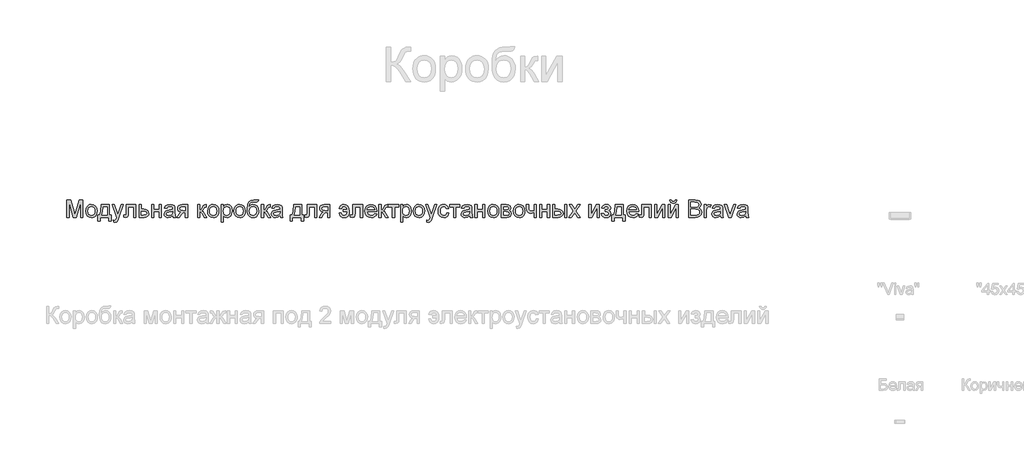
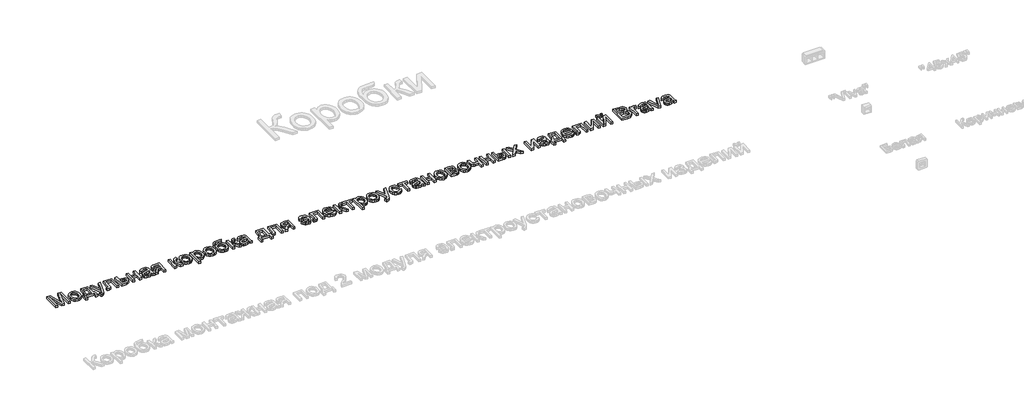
# One storey, part 40 of 48: 1 proxy.
"""IFC4 building model written with IfcOpenShell, lengths in millimetres."""

from ifc_helpers import new_model, si_unit, origin, origin_with_axes, place, context, project, spatial, polyline, outline, extrude, element, save

model = new_model("IFC4")

# Units and contexts
model_context = context("Model", 3, world=origin())
ifc_project = project(units=[si_unit("LENGTHUNIT", "METRE", prefix="MILLI")], contexts=[model_context])

# Site, building, storey
site = spatial("IfcSite", under=ifc_project)
building = spatial("IfcBuilding", under=site)
storey = spatial("IfcBuildingStorey", under=building, Name="Этаж 01", Elevation=0.0)

# Proxy
placement = place(None, origin())
element("IfcBuildingElementProxy", 1, Name="150 мм Arial", ObjectType="150 мм Arial", at=placement, inside=storey, context=model_context, shape_type="SweptSolid", body=[
    extrude(outline(polyline([(37339.3634771, 4021.617154), (37339.3634771, 4172.3016192), (37371.7738809, 4172.3016192), (37402.6023921, 4066.0940872), (37408.8195978, 4043.9108029), (37415.5518383, 4067.9334972), (37445.8653147, 4172.3016192), (37478.2757185, 4172.3016192), (37478.2757185, 4021.617154), (37459.4401604, 4021.617154), (37459.4401604, 4153.466061), (37421.585103, 4021.617154), (37396.0540926, 4021.617154), (37358.1990353, 4153.466061), (37358.1990353, 4021.617154), (37339.3634771, 4021.617154)])), origin_with_axes(), (0.0, 0.0, 1.0), 20.0),
    extrude(outline(polyline([(37504.174611, 4076.946606), (37508.2489041, 4103.6272477), (37520.4717834, 4122.3800324), (37535.5733393, 4131.5678853), (37553.6547393, 4134.6305029), (37573.4421921, 4130.9010992), (37589.2473224, 4119.712888), (37599.607799, 4101.9487861), (37603.0612913, 4078.4917104), (37601.534581, 4059.4630142), (37596.9544502, 4044.9776607), (37589.454256, 4034.1297403), (37579.1673557, 4026.0133438), (37566.9490749, 4020.9503679), (37553.6547393, 4019.2627092), (37533.6281632, 4022.9783174), (37517.8414271, 4034.1251418), (37507.591315, 4052.2617242), (37504.174611, 4076.946606)]), holes=[polyline([(37523.0101691, 4076.9833942), (37525.1898699, 4059.9366623), (37531.7289724, 4047.7919579), (37541.5698158, 4040.52169), (37553.6547393, 4038.0982674), (37565.6844806, 4040.5354856), (37575.5069298, 4047.8471402), (37582.0460323, 4060.152793), (37584.2257331, 4077.5720054), (37582.0322367, 4094.1220967), (37575.4517475, 4106.1012542), (37565.6155027, 4113.3715221), (37553.6547393, 4115.7949447), (37541.5698158, 4113.3807191), (37531.7289724, 4106.1380424), (37525.1898699, 4094.0209291), (37523.0101691, 4076.9833942)])]), origin_with_axes(), (0.0, 0.0, 1.0), 20.0),
    extrude(outline(polyline([(37640.7324076, 4132.2760581), (37711.3657507, 4132.2760581), (37711.3657507, 4040.4527121), (37725.4924193, 4040.4527121), (37725.4924193, 3991.009372), (37706.6568611, 3991.009372), (37706.6568611, 4021.617154), (37628.9601837, 4021.617154), (37628.9601837, 3991.009372), (37610.1246256, 3991.009372), (37610.1246256, 4040.4527121), (37621.8968494, 4040.4527121), (37630.4547043, 4055.9175515), (37636.4465823, 4076.376389), (37640.7324076, 4132.2760581)]), holes=[polyline([(37657.213521, 4113.4405), (37652.798937, 4070.5270652), (37643.0868523, 4040.4527121), (37692.5301925, 4040.4527121), (37692.5301925, 4113.4405), (37657.213521, 4113.4405)])]), origin_with_axes(), (0.0, 0.0, 1.0), 20.0),
    extrude(outline(polyline([(37746.6824222, 3979.2371481), (37744.3279774, 3997.3737305), (37753.8929093, 3995.7182615), (37762.8324418, 3997.7967948), (37768.3138835, 4003.5909362), (37773.4642314, 4017.4600874), (37774.9357594, 4022.0218242), (37734.9101983, 4132.2760581), (37754.7758261, 4132.2760581), (37776.0026172, 4070.8397649), (37783.3970453, 4046.2652476), (37790.7914734, 4067.9702854), (37812.6068757, 4132.2760581), (37832.3253507, 4132.2760581), (37793.8081058, 4018.9684036), (37783.8017155, 3994.3938863), (37772.8756202, 3981.1133463), (37758.1971286, 3976.8827034), (37746.6824222, 3979.2371481)])), origin_with_axes(), (0.0, 0.0, 1.0), 20.0),
    extrude(outline(polyline([(37857.3413263, 4132.2760581), (37942.101338, 4132.2760581), (37942.101338, 4021.7275186), (37923.2657799, 4021.7275186), (37923.2657799, 4113.4405), (37876.1768845, 4113.4405), (37876.1768845, 4060.6494337), (37874.9076916, 4036.2956456), (37867.9363278, 4026.0133438), (37851.4552144, 4021.617154), (37836.1513234, 4022.5736472), (37836.1513234, 4040.4527121), (37844.5758211, 4040.4527121), (37853.0922893, 4041.6115404), (37856.4951977, 4045.2903604), (37857.3413263, 4061.7162914), (37857.3413263, 4132.2760581)])), origin_with_axes(), (0.0, 0.0, 1.0), 20.0),
    extrude(outline(polyline([(37970.3546753, 4132.2760581), (37989.1902334, 4132.2760581), (37989.1902334, 4092.250497), (38010.8952711, 4092.250497), (38029.7124352, 4089.8914537), (38043.6367687, 4082.8143239), (38052.2452074, 4071.5893245), (38055.1146869, 4056.7866727), (38052.6728702, 4043.3083961), (38045.34742, 4031.9362439), (38032.6508926, 4024.1969265), (38014.0958445, 4021.617154), (37970.3546753, 4021.617154), (37970.3546753, 4132.2760581)]), holes=[polyline([(37989.1902334, 4040.4527121), (38006.7749928, 4040.4527121), (38029.491706, 4044.4074436), (38034.5822731, 4049.4704195), (38036.2791288, 4056.7498845), (38031.2575396, 4068.3381674), (38023.1871283, 4072.145746), (38009.0190729, 4073.4149389), (37989.1902334, 4073.4149389), (37989.1902334, 4040.4527121)])]), origin_with_axes(), (0.0, 0.0, 1.0), 20.0),
    extrude(outline(polyline([(38078.6591346, 4132.2760581), (38097.4946928, 4132.2760581), (38097.4946928, 4089.8960523), (38146.9380329, 4089.8960523), (38146.9380329, 4132.2760581), (38165.7735911, 4132.2760581), (38165.7735911, 4021.617154), (38146.9380329, 4021.617154), (38146.9380329, 4071.0604941), (38097.4946928, 4071.0604941), (38097.4946928, 4021.617154), (38078.6591346, 4021.617154), (38078.6591346, 4132.2760581)])), origin_with_axes(), (0.0, 0.0, 1.0), 20.0),
    extrude(outline(polyline([(38264.6602714, 4035.7438226), (38246.3949303, 4022.9783174), (38226.2166029, 4019.2627092), (38210.475852, 4021.4975923), (38198.8645766, 4028.2022417), (38191.7046732, 4038.3833759), (38189.3180388, 4051.0477136), (38192.9232823, 4065.9469344), (38202.3962437, 4076.762665), (38215.5848132, 4082.9430826), (38231.8819856, 4085.7757739), (38264.5499068, 4092.250497), (38264.6602714, 4096.4443518), (38263.3634874, 4104.8504554), (38259.4731353, 4110.3502912), (38250.7727261, 4114.4337814), (38238.6510143, 4115.7949447), (38219.594727, 4112.1713071), (38210.5080417, 4099.3138314), (38191.6724836, 4101.6682761), (38199.8210697, 4120.0623759), (38216.2286067, 4130.8413183), (38241.0790355, 4134.6305029), (38263.9061133, 4131.2827767), (38276.8003772, 4122.8766731), (38282.5761246, 4110.0927738), (38283.4958295, 4093.6116604), (38283.4958295, 4070.1775773), (38284.4523227, 4037.4544739), (38288.2047191, 4021.617154), (38269.3691609, 4021.617154), (38264.6602714, 4035.7438226)]), holes=[polyline([(38264.6602714, 4073.4149389), (38234.2732186, 4067.6391916), (38218.0680167, 4064.585771), (38210.7287709, 4059.6193641), (38208.1535969, 4052.3720888), (38213.7637974, 4042.1817575), (38230.2265166, 4038.0982674), (38249.282804, 4042.6048218), (38261.5700626, 4053.512523), (38264.5499068, 4068.08065), (38264.6602714, 4073.4149389)])]), origin_with_axes(), (0.0, 0.0, 1.0), 20.0),
    extrude(outline(polyline([(38394.1547337, 4132.2760581), (38394.1547337, 4021.617154), (38375.3191755, 4021.617154), (38375.3191755, 4063.9971598), (38365.0552679, 4063.9971598), (38351.0757521, 4061.6059268), (38337.9423648, 4045.5294837), (38322.9327794, 4021.617154), (38301.1541653, 4021.617154), (38320.0632999, 4051.857054), (38328.4142212, 4062.7095728), (38336.1029549, 4067.528827), (38323.227085, 4071.4743614), (38314.1771879, 4078.969957), (38308.8245049, 4088.9395591), (38307.0402772, 4100.3071127), (38309.4774955, 4113.2013767), (38316.7891501, 4123.410102), (38328.7177238, 4130.0595691), (38345.0056991, 4132.2760581), (38394.1547337, 4132.2760581)]), holes=[polyline([(38375.3191755, 4113.4405), (38350.4871409, 4113.4405), (38337.6618548, 4112.3506496), (38330.3823898, 4109.0810983), (38325.8758354, 4098.872373), (38327.5359029, 4091.6940755), (38332.5161054, 4086.713873), (38356.042159, 4082.832718), (38375.3191755, 4082.832718), (38375.3191755, 4113.4405)])]), origin_with_axes(), (0.0, 0.0, 1.0), 20.0),
    extrude(outline(polyline([(38481.2691902, 4132.2760581), (38500.1047483, 4132.2760581), (38500.1047483, 4085.1871627), (38512.7231007, 4088.5716771), (38523.0605848, 4108.290152), (38531.6506294, 4125.3046943), (38539.2289985, 4130.8413183), (38553.0061792, 4132.2760581), (38556.6114228, 4132.2760581), (38556.6114228, 4113.3301354), (38551.5346512, 4113.4405), (38542.3376014, 4111.4539372), (38535.8628782, 4099.056314), (38528.266115, 4085.6470152), (38517.6159313, 4079.0803216), (38529.4985197, 4071.7502729), (38541.160379, 4056.3084261), (38561.3203123, 4021.617154), (38539.9095802, 4021.617154), (38520.154317, 4055.5726621), (38510.2215032, 4069.938454), (38500.1047483, 4073.4149389), (38500.1047483, 4021.617154), (38481.2691902, 4021.617154), (38481.2691902, 4132.2760581)])), origin_with_axes(), (0.0, 0.0, 1.0), 20.0),
    extrude(outline(polyline([(38568.3836466, 4076.946606), (38572.4579397, 4103.6272477), (38584.680819, 4122.3800324), (38599.7823749, 4131.5678853), (38617.863775, 4134.6305029), (38637.6512278, 4130.9010992), (38653.456358, 4119.712888), (38663.8168347, 4101.9487861), (38667.2703269, 4078.4917104), (38665.7436166, 4059.4630142), (38661.1634858, 4044.9776607), (38653.6632916, 4034.1297403), (38643.3763913, 4026.0133438), (38631.1581106, 4020.9503679), (38617.863775, 4019.2627092), (38597.8371989, 4022.9783174), (38582.0504627, 4034.1251418), (38571.8003506, 4052.2617242), (38568.3836466, 4076.946606)]), holes=[polyline([(38587.2192048, 4076.9833942), (38589.3989056, 4059.9366623), (38595.9380081, 4047.7919579), (38605.7788514, 4040.52169), (38617.863775, 4038.0982674), (38629.8935162, 4040.5354856), (38639.7159655, 4047.8471402), (38646.2550679, 4060.152793), (38648.4347688, 4077.5720054), (38646.2412724, 4094.1220967), (38639.6607832, 4106.1012542), (38629.8245383, 4113.3715221), (38617.863775, 4115.7949447), (38605.7788514, 4113.3807191), (38595.9380081, 4106.1380424), (38589.3989056, 4094.0209291), (38587.2192048, 4076.9833942)])]), origin_with_axes(), (0.0, 0.0, 1.0), 20.0),
    extrude(outline(polyline([(38688.4603298, 3979.2371481), (38688.4603298, 4132.2760581), (38707.295888, 4132.2760581), (38707.295888, 4113.808382), (38720.3189106, 4129.4249727), (38737.90367, 4134.6305029), (38750.6415841, 4132.809487), (38761.7792115, 4127.3464394), (38770.8475027, 4118.5724538), (38777.3774081, 4106.8186241), (38782.6381206, 4077.7927346), (38781.152797, 4061.6841018), (38776.6968264, 4047.2769231), (38769.4127629, 4035.3023642), (38759.4431608, 4026.4915904), (38747.8318853, 4021.0699295), (38735.6228016, 4019.2627092), (38719.2336587, 4024.1003574), (38707.295888, 4036.3324338), (38707.295888, 3979.2371481), (38688.4603298, 3979.2371481)]), holes=[polyline([(38707.295888, 4076.0636893), (38709.3330345, 4059.1779057), (38715.4444742, 4047.3688936), (38724.4621816, 4040.4159239), (38735.2181314, 4038.0982674), (38746.1488252, 4040.4986974), (38755.3964589, 4047.6999874), (38761.7010366, 4059.9412608), (38763.8025625, 4077.4616408), (38761.7516203, 4094.2554539), (38755.598794, 4106.2300129), (38746.5948821, 4113.4037118), (38735.9906836, 4115.7949447), (38725.3450984, 4113.2519604), (38715.9962972, 4105.6230076), (38709.4709903, 4093.1472094), (38707.295888, 4076.0636893)])]), origin_with_axes(), (0.0, 0.0, 1.0), 20.0),
    extrude(outline(polyline([(38799.119234, 4076.946606), (38803.1935271, 4103.6272477), (38815.4164064, 4122.3800324), (38830.5179623, 4131.5678853), (38848.5993623, 4134.6305029), (38868.3868152, 4130.9010992), (38884.1919454, 4119.712888), (38894.5524221, 4101.9487861), (38898.0059143, 4078.4917104), (38896.479204, 4059.4630142), (38891.8990732, 4044.9776607), (38884.398879, 4034.1297403), (38874.1119787, 4026.0133438), (38861.8936979, 4020.9503679), (38848.5993623, 4019.2627092), (38828.5727862, 4022.9783174), (38812.7860501, 4034.1251418), (38802.535938, 4052.2617242), (38799.119234, 4076.946606)]), holes=[polyline([(38817.9547921, 4076.9833942), (38820.134493, 4059.9366623), (38826.6735954, 4047.7919579), (38836.5144388, 4040.52169), (38848.5993623, 4038.0982674), (38860.6291036, 4040.5354856), (38870.4515529, 4047.8471402), (38876.9906553, 4060.152793), (38879.1703561, 4077.5720054), (38876.9768597, 4094.1220967), (38870.3963706, 4106.1012542), (38860.5601257, 4113.3715221), (38848.5993623, 4115.7949447), (38836.5144388, 4113.3807191), (38826.6735954, 4106.1380424), (38820.134493, 4094.0209291), (38817.9547921, 4076.9833942)])]), origin_with_axes(), (0.0, 0.0, 1.0), 20.0),
    extrude(outline(polyline([(38996.8925946, 4174.656064), (39013.373708, 4174.656064), (39008.5176656, 4159.9591783), (38998.9159456, 4154.6432834), (38975.8497445, 4153.466061), (38944.78211, 4149.1250535), (38937.6543963, 4143.4780649), (38932.8627333, 4135.2191141), (38928.8344255, 4110.6078086), (38945.149992, 4128.6340264), (38955.0690103, 4133.1313838), (38966.174448, 4134.6305029), (38985.7733613, 4130.8183257), (39001.6750605, 4119.3817942), (39012.2148797, 4101.4429484), (39015.7281527, 4078.1238284), (39013.9853118, 4060.1435959), (39008.7567889, 4045.7134247), (38992.2204933, 4026.1604966), (38980.926516, 4020.9871561), (38966.174448, 4019.2627092), (38949.1737013, 4021.4837967), (38936.4311887, 4028.1470594), (38927.0547963, 4038.2730113), (38920.1524104, 4050.8821667), (38915.9033734, 4069.8694762), (38914.4870277, 4099.1298904), (38918.0600816, 4135.2696979), (38928.7792432, 4157.3104279), (38946.911227, 4168.5538214), (38972.7227475, 4172.3016192), (38993.6920212, 4172.7246835), (38996.8925946, 4174.656064)]), holes=[polyline([(38996.8925946, 4078.7124396), (38994.8508495, 4093.5334855), (38988.7256143, 4105.4022784), (38978.8847709, 4113.1967781), (38965.6962014, 4115.7949447), (38951.9466118, 4113.0496253), (38941.7470835, 4104.8136672), (38935.4287103, 4091.9883811), (38933.3225858, 4075.4750781), (38935.6494394, 4059.4676127), (38942.6300003, 4047.7183815), (38953.0226667, 4040.5032959), (38965.5858368, 4038.0982674), (38978.2133863, 4040.8803749), (38988.2105795, 4049.2266977), (38994.7220908, 4062.1623484), (38996.8925946, 4078.7124396)])]), origin_with_axes(), (0.0, 0.0, 1.0), 20.0),
    extrude(outline(polyline([(39039.2726004, 4132.2760581), (39058.1081586, 4132.2760581), (39058.1081586, 4085.1871627), (39070.726511, 4088.5716771), (39081.0639951, 4108.290152), (39089.6540397, 4125.3046943), (39097.2324088, 4130.8413183), (39111.0095895, 4132.2760581), (39114.6148331, 4132.2760581), (39114.6148331, 4113.3301354), (39109.5380615, 4113.4405), (39100.3410116, 4111.4539372), (39093.8662885, 4099.056314), (39086.2695253, 4085.6470152), (39075.6193416, 4079.0803216), (39087.50193, 4071.7502729), (39099.1637893, 4056.3084261), (39119.3237226, 4021.617154), (39097.9129905, 4021.617154), (39078.1577273, 4055.5726621), (39068.2249135, 4069.938454), (39058.1081586, 4073.4149389), (39058.1081586, 4021.617154), (39039.2726004, 4021.617154), (39039.2726004, 4132.2760581)])), origin_with_axes(), (0.0, 0.0, 1.0), 20.0),
    extrude(outline(polyline([(39201.7292895, 4035.7438226), (39183.4639485, 4022.9783174), (39163.285621, 4019.2627092), (39147.5448701, 4021.4975923), (39135.9335947, 4028.2022417), (39128.7736913, 4038.3833759), (39126.3870569, 4051.0477136), (39129.9923005, 4065.9469344), (39139.4652618, 4076.762665), (39152.6538314, 4082.9430826), (39168.9510037, 4085.7757739), (39201.6189249, 4092.250497), (39201.7292895, 4096.4443518), (39200.4325055, 4104.8504554), (39196.5421534, 4110.3502912), (39187.8417442, 4114.4337814), (39175.7200325, 4115.7949447), (39156.6637451, 4112.1713071), (39147.5770598, 4099.3138314), (39128.7415017, 4101.6682761), (39136.8900879, 4120.0623759), (39153.2976248, 4130.8413183), (39178.1480536, 4134.6305029), (39200.9751314, 4131.2827767), (39213.8693954, 4122.8766731), (39219.6451427, 4110.0927738), (39220.5648477, 4093.6116604), (39220.5648477, 4070.1775773), (39221.5213409, 4037.4544739), (39225.2737372, 4021.617154), (39206.438179, 4021.617154), (39201.7292895, 4035.7438226)]), holes=[polyline([(39201.7292895, 4073.4149389), (39171.3422367, 4067.6391916), (39155.1370348, 4064.585771), (39147.797789, 4059.6193641), (39145.2226151, 4052.3720888), (39150.8328155, 4042.1817575), (39167.2955348, 4038.0982674), (39186.3518221, 4042.6048218), (39198.6390808, 4053.512523), (39201.6189249, 4068.08065), (39201.7292895, 4073.4149389)])]), origin_with_axes(), (0.0, 0.0, 1.0), 20.0),
    extrude(outline(polyline([(39321.8059727, 4132.2760581), (39392.4393158, 4132.2760581), (39392.4393158, 4040.4527121), (39406.5659844, 4040.4527121), (39406.5659844, 3991.009372), (39387.7304263, 3991.009372), (39387.7304263, 4021.617154), (39310.0337489, 4021.617154), (39310.0337489, 3991.009372), (39291.1981907, 3991.009372), (39291.1981907, 4040.4527121), (39302.9704146, 4040.4527121), (39311.5282695, 4055.9175515), (39317.5201475, 4076.376389), (39321.8059727, 4132.2760581)]), holes=[polyline([(39338.2870861, 4113.4405), (39333.8725022, 4070.5270652), (39324.1604175, 4040.4527121), (39373.6037577, 4040.4527121), (39373.6037577, 4113.4405), (39338.2870861, 4113.4405)])]), origin_with_axes(), (0.0, 0.0, 1.0), 20.0),
    extrude(outline(polyline([(39437.1737664, 4132.2760581), (39521.9337781, 4132.2760581), (39521.9337781, 4021.7275186), (39503.09822, 4021.7275186), (39503.09822, 4113.4405), (39456.0093246, 4113.4405), (39456.0093246, 4060.6494337), (39454.7401317, 4036.2956456), (39447.7687679, 4026.0133438), (39431.2876545, 4021.617154), (39415.9837635, 4022.5736472), (39415.9837635, 4040.4527121), (39424.4082612, 4040.4527121), (39432.9247294, 4041.6115404), (39436.3276378, 4045.2903604), (39437.1737664, 4061.7162914), (39437.1737664, 4132.2760581)])), origin_with_axes(), (0.0, 0.0, 1.0), 20.0),
    extrude(outline(polyline([(39634.947127, 4132.2760581), (39634.947127, 4021.617154), (39616.1115689, 4021.617154), (39616.1115689, 4063.9971598), (39605.8476612, 4063.9971598), (39591.8681454, 4061.6059268), (39578.7347582, 4045.5294837), (39563.7251728, 4021.617154), (39541.9465587, 4021.617154), (39560.8556932, 4051.857054), (39569.2066145, 4062.7095728), (39576.8953482, 4067.528827), (39564.0194784, 4071.4743614), (39554.9695813, 4078.969957), (39549.6168982, 4088.9395591), (39547.8326706, 4100.3071127), (39550.2698888, 4113.2013767), (39557.5815434, 4123.410102), (39569.5101171, 4130.0595691), (39585.7980925, 4132.2760581), (39634.947127, 4132.2760581)]), holes=[polyline([(39616.1115689, 4113.4405), (39591.2795342, 4113.4405), (39578.4542481, 4112.3506496), (39571.1747832, 4109.0810983), (39566.6682287, 4098.872373), (39568.3282962, 4091.6940755), (39573.3084987, 4086.713873), (39596.8345523, 4082.832718), (39616.1115689, 4082.832718), (39616.1115689, 4113.4405)])]), origin_with_axes(), (0.0, 0.0, 1.0), 20.0),
    extrude(outline(polyline([(39752.6693655, 4089.8960523), (39787.986037, 4089.8960523), (39785.0843678, 4100.3301054), (39779.4695688, 4108.6028517), (39771.5095222, 4113.9969215), (39761.5721098, 4115.7949447), (39746.305007, 4111.0860552), (39738.5426969, 4096.9593866), (39719.7071387, 4099.3138314), (39724.09873, 4113.4542955), (39732.6381909, 4124.7528713), (39744.8932598, 4132.161095), (39760.4316756, 4134.6305029), (39779.6581084, 4130.786136), (39794.3687896, 4119.2530355), (39803.7083938, 4100.9876944), (39806.8215952, 4076.946606), (39804.2510197, 4053.0158823), (39795.362071, 4034.1987182), (39780.8353307, 4022.3345239), (39761.3513806, 4019.2627092), (39744.649538, 4022.0172256), (39731.4793626, 4030.280775), (39722.2455245, 4043.0416817), (39717.352694, 4059.2882703), (39736.1882521, 4061.642715), (39739.1634977, 4051.3420192), (39744.3000501, 4043.9843793), (39751.5979092, 4039.5697953), (39761.057075, 4038.0982674), (39771.6980617, 4040.1584065), (39779.7086921, 4046.338824), (39785.1257545, 4056.6395199), (39787.986037, 4071.0604941), (39752.6693655, 4071.0604941), (39752.6693655, 4089.8960523)])), origin_with_axes(), (0.0, 0.0, 1.0), 20.0),
    extrude(outline(polyline([(39837.4293772, 4132.2760581), (39922.1893889, 4132.2760581), (39922.1893889, 4021.7275186), (39903.3538307, 4021.7275186), (39903.3538307, 4113.4405), (39856.2649353, 4113.4405), (39856.2649353, 4060.6494337), (39854.9957424, 4036.2956456), (39848.0243786, 4026.0133438), (39831.5432653, 4021.617154), (39816.2393743, 4022.5736472), (39816.2393743, 4040.4527121), (39824.6638719, 4040.4527121), (39833.1803401, 4041.6115404), (39836.5832486, 4045.2903604), (39837.4293772, 4061.7162914), (39837.4293772, 4132.2760581)])), origin_with_axes(), (0.0, 0.0, 1.0), 20.0),
    extrude(outline(polyline([(40027.9186743, 4054.5793807), (40046.3863504, 4052.224936), (40039.7322848, 4038.3097995), (40029.1142908, 4027.9079361), (40014.7714915, 4021.4240159), (39996.9430103, 4019.2627092), (39974.8424994, 4022.9921129), (39957.8371542, 4034.1803241), (39946.9938324, 4052.1007758), (39943.3793918, 4076.0269011), (39947.0306206, 4100.7577682), (39957.984307, 4119.2530355), (39974.759726, 4130.786136), (39995.8761525, 4134.6305029), (40016.33499, 4130.7953331), (40032.6827461, 4119.2898237), (40043.4019078, 4100.8313446), (40046.9749616, 4076.1372657), (40046.864597, 4071.0604941), (39962.2149499, 4071.0604941), (39965.4753041, 4056.9614167), (39973.0490747, 4046.5963414), (39983.9797685, 4040.2227859), (39997.3108923, 4038.0982674), (40015.7785684, 4042.0346047), (40027.9186743, 4054.5793807)]), holes=[polyline([(39962.2149499, 4089.8960523), (40028.1394035, 4089.8960523), (40025.5918207, 4099.8472602), (40020.5978226, 4106.9657769), (40009.616545, 4113.5876528), (39995.8025761, 4115.7949447), (39983.1060487, 4114.0337097), (39972.6076163, 4108.7500045), (39965.3097572, 4100.5140464), (39962.2149499, 4089.8960523)])]), origin_with_axes(), (0.0, 0.0, 1.0), 20.0),
    extrude(outline(polyline([(40065.8105198, 4132.2760581), (40084.6460779, 4132.2760581), (40084.6460779, 4085.1871627), (40097.2644304, 4088.5716771), (40107.6019144, 4108.290152), (40116.191959, 4125.3046943), (40123.7703281, 4130.8413183), (40137.5475088, 4132.2760581), (40141.1527524, 4132.2760581), (40141.1527524, 4113.3301354), (40136.0759809, 4113.4405), (40126.878931, 4111.4539372), (40120.4042079, 4099.056314), (40112.8074447, 4085.6470152), (40102.1572609, 4079.0803216), (40114.0398493, 4071.7502729), (40125.7017086, 4056.3084261), (40145.8616419, 4021.617154), (40124.4509098, 4021.617154), (40104.6956467, 4055.5726621), (40094.7628328, 4069.938454), (40084.6460779, 4073.4149389), (40084.6460779, 4021.617154), (40065.8105198, 4021.617154), (40065.8105198, 4132.2760581)])), origin_with_axes(), (0.0, 0.0, 1.0), 20.0),
    extrude(outline(polyline([(40148.2160867, 4132.2760581), (40237.6849879, 4132.2760581), (40237.6849879, 4113.4405), (40202.3683164, 4113.4405), (40202.3683164, 4021.617154), (40183.5327582, 4021.617154), (40183.5327582, 4113.4405), (40148.2160867, 4113.4405), (40148.2160867, 4132.2760581)])), origin_with_axes(), (0.0, 0.0, 1.0), 20.0),
    extrude(outline(polyline([(40254.1661013, 3979.2371481), (40254.1661013, 4132.2760581), (40273.0016595, 4132.2760581), (40273.0016595, 4113.808382), (40286.0246821, 4129.4249727), (40303.6094415, 4134.6305029), (40316.3473555, 4132.809487), (40327.484983, 4127.3464394), (40336.5532741, 4118.5724538), (40343.0831795, 4106.8186241), (40348.3438921, 4077.7927346), (40346.8585685, 4061.6841018), (40342.4025979, 4047.2769231), (40335.1185344, 4035.3023642), (40325.1489323, 4026.4915904), (40313.5376568, 4021.0699295), (40301.3285731, 4019.2627092), (40284.9394302, 4024.1003574), (40273.0016595, 4036.3324338), (40273.0016595, 3979.2371481), (40254.1661013, 3979.2371481)]), holes=[polyline([(40273.0016595, 4076.0636893), (40275.038806, 4059.1779057), (40281.1502457, 4047.3688936), (40290.1679531, 4040.4159239), (40300.9239029, 4038.0982674), (40311.8545967, 4040.4986974), (40321.1022303, 4047.6999874), (40327.406808, 4059.9412608), (40329.5083339, 4077.4616408), (40327.4573918, 4094.2554539), (40321.3045654, 4106.2300129), (40312.3006536, 4113.4037118), (40301.6964551, 4115.7949447), (40291.0508699, 4113.2519604), (40281.7020687, 4105.6230076), (40275.1767618, 4093.1472094), (40273.0016595, 4076.0636893)])]), origin_with_axes(), (0.0, 0.0, 1.0), 20.0),
    extrude(outline(polyline([(40364.8250055, 4076.946606), (40368.8992986, 4103.6272477), (40381.1221778, 4122.3800324), (40396.2237338, 4131.5678853), (40414.3051338, 4134.6305029), (40434.0925866, 4130.9010992), (40449.8977168, 4119.712888), (40460.2581935, 4101.9487861), (40463.7116858, 4078.4917104), (40462.1849755, 4059.4630142), (40457.6048446, 4044.9776607), (40450.1046505, 4034.1297403), (40439.8177502, 4026.0133438), (40427.5994694, 4020.9503679), (40414.3051338, 4019.2627092), (40394.2785577, 4022.9783174), (40378.4918216, 4034.1251418), (40368.2417095, 4052.2617242), (40364.8250055, 4076.946606)]), holes=[polyline([(40383.6605636, 4076.9833942), (40385.8402644, 4059.9366623), (40392.3793669, 4047.7919579), (40402.2202103, 4040.52169), (40414.3051338, 4038.0982674), (40426.3348751, 4040.5354856), (40436.1573243, 4047.8471402), (40442.6964268, 4060.152793), (40444.8761276, 4077.5720054), (40442.6826312, 4094.1220967), (40436.102142, 4106.1012542), (40426.2658972, 4113.3715221), (40414.3051338, 4115.7949447), (40402.2202103, 4113.3807191), (40392.3793669, 4106.1380424), (40385.8402644, 4094.0209291), (40383.6605636, 4076.9833942)])]), origin_with_axes(), (0.0, 0.0, 1.0), 20.0),
    extrude(outline(polyline([(40484.9016887, 3979.2371481), (40482.5472439, 3997.3737305), (40492.1121758, 3995.7182615), (40501.0517083, 3997.7967948), (40506.53315, 4003.5909362), (40511.6834979, 4017.4600874), (40513.1550259, 4022.0218242), (40473.1294648, 4132.2760581), (40492.9950926, 4132.2760581), (40514.2218837, 4070.8397649), (40521.6163118, 4046.2652476), (40529.0107399, 4067.9702854), (40550.8261422, 4132.2760581), (40570.5446172, 4132.2760581), (40532.0273723, 4018.9684036), (40522.020982, 3994.3938863), (40511.0948867, 3981.1133463), (40496.4163951, 3976.8827034), (40484.9016887, 3979.2371481)])), origin_with_axes(), (0.0, 0.0, 1.0), 20.0),
    extrude(outline(polyline([(40656.7761568, 4061.642715), (40675.611715, 4059.2882703), (40670.3601995, 4042.5358439), (40660.491765, 4029.8761048), (40646.9353135, 4021.9160581), (40630.619747, 4019.2627092), (40610.5839738, 4022.9645218), (40594.9167993, 4034.0699595), (40584.804643, 4052.0915787), (40581.4339242, 4076.5419358), (40582.8732625, 4093.3035593), (40587.1912774, 4107.8302995), (40594.4569469, 4119.5611367), (40604.7392486, 4127.9350506), (40617.0403028, 4132.9566398), (40630.3622296, 4134.6305029), (40646.2777244, 4132.3312404), (40659.0018429, 4125.433453), (40668.1299149, 4114.3050227), (40673.2572702, 4099.3138314), (40654.4217121, 4096.9593866), (40645.6845147, 4111.0676611), (40630.5093824, 4115.7949447), (40618.3370869, 4113.4680911), (40608.675586, 4106.4875303), (40602.3710083, 4094.4761831), (40600.2694824, 4077.0569706), (40602.325023, 4059.4032334), (40608.491645, 4047.3504995), (40617.9784019, 4040.4113254), (40629.9943476, 4038.0982674), (40639.747819, 4039.5422042), (40647.7446539, 4043.8740147), (40653.5617879, 4051.2040634), (40656.7761568, 4061.642715)])), origin_with_axes(), (0.0, 0.0, 1.0), 20.0),
    extrude(outline(polyline([(40682.6750493, 4132.2760581), (40772.1439505, 4132.2760581), (40772.1439505, 4113.4405), (40736.827279, 4113.4405), (40736.827279, 4021.617154), (40717.9917208, 4021.617154), (40717.9917208, 4113.4405), (40682.6750493, 4113.4405), (40682.6750493, 4132.2760581)])), origin_with_axes(), (0.0, 0.0, 1.0), 20.0),
    extrude(outline(polyline([(40859.258407, 4035.7438226), (40840.9930659, 4022.9783174), (40820.8147385, 4019.2627092), (40805.0739876, 4021.4975923), (40793.4627121, 4028.2022417), (40786.3028088, 4038.3833759), (40783.9161744, 4051.0477136), (40787.5214179, 4065.9469344), (40796.9943793, 4076.762665), (40810.1829488, 4082.9430826), (40826.4801212, 4085.7757739), (40859.1480424, 4092.250497), (40859.258407, 4096.4443518), (40857.9616229, 4104.8504554), (40854.0712708, 4110.3502912), (40845.3708617, 4114.4337814), (40833.2491499, 4115.7949447), (40814.1928626, 4112.1713071), (40805.1061773, 4099.3138314), (40786.2706191, 4101.6682761), (40794.4192053, 4120.0623759), (40810.8267423, 4130.8413183), (40835.6771711, 4134.6305029), (40858.5042489, 4131.2827767), (40871.3985128, 4122.8766731), (40877.1742601, 4110.0927738), (40878.0939651, 4093.6116604), (40878.0939651, 4070.1775773), (40879.0504583, 4037.4544739), (40882.8028547, 4021.617154), (40863.9672965, 4021.617154), (40859.258407, 4035.7438226)]), holes=[polyline([(40859.258407, 4073.4149389), (40828.8713542, 4067.6391916), (40812.6661523, 4064.585771), (40805.3269065, 4059.6193641), (40802.7517325, 4052.3720888), (40808.3619329, 4042.1817575), (40824.8246522, 4038.0982674), (40843.8809396, 4042.6048218), (40856.1681982, 4053.512523), (40859.1480424, 4068.08065), (40859.258407, 4073.4149389)])]), origin_with_axes(), (0.0, 0.0, 1.0), 20.0),
    extrude(outline(polyline([(40903.9928576, 4132.2760581), (40922.8284157, 4132.2760581), (40922.8284157, 4089.8960523), (40972.2717559, 4089.8960523), (40972.2717559, 4132.2760581), (40991.1073141, 4132.2760581), (40991.1073141, 4021.617154), (40972.2717559, 4021.617154), (40972.2717559, 4071.0604941), (40922.8284157, 4071.0604941), (40922.8284157, 4021.617154), (40903.9928576, 4021.617154), (40903.9928576, 4132.2760581)])), origin_with_axes(), (0.0, 0.0, 1.0), 20.0),
    extrude(outline(polyline([(41014.6517617, 4076.946606), (41018.7260548, 4103.6272477), (41030.9489341, 4122.3800324), (41046.05049, 4131.5678853), (41064.1318901, 4134.6305029), (41083.9193429, 4130.9010992), (41099.7244731, 4119.712888), (41110.0849498, 4101.9487861), (41113.538442, 4078.4917104), (41112.0117318, 4059.4630142), (41107.4316009, 4044.9776607), (41099.9314067, 4034.1297403), (41089.6445065, 4026.0133438), (41077.4262257, 4020.9503679), (41064.1318901, 4019.2627092), (41044.105314, 4022.9783174), (41028.3185779, 4034.1251418), (41018.0684658, 4052.2617242), (41014.6517617, 4076.946606)]), holes=[polyline([(41033.4873199, 4076.9833942), (41035.6670207, 4059.9366623), (41042.2061232, 4047.7919579), (41052.0469666, 4040.52169), (41064.1318901, 4038.0982674), (41076.1616313, 4040.5354856), (41085.9840806, 4047.8471402), (41092.5231831, 4060.152793), (41094.7028839, 4077.5720054), (41092.5093875, 4094.1220967), (41085.9288983, 4106.1012542), (41076.0926535, 4113.3715221), (41064.1318901, 4115.7949447), (41052.0469666, 4113.3807191), (41042.2061232, 4106.1380424), (41035.6670207, 4094.0209291), (41033.4873199, 4076.9833942)])]), origin_with_axes(), (0.0, 0.0, 1.0), 20.0),
    extrude(outline(polyline([(41134.728445, 4132.2760581), (41176.225534, 4132.2760581), (41198.9790354, 4129.7560665), (41211.7813289, 4120.5222284), (41217.1340119, 4104.4273911), (41213.8966503, 4091.3491862), (41204.1477775, 4082.0233776), (41216.8029181, 4071.8146522), (41221.8429014, 4054.0643459), (41218.6515251, 4039.7077511), (41211.063959, 4029.6001933), (41199.0526118, 4023.6129138), (41182.5898925, 4021.617154), (41134.728445, 4021.617154), (41134.728445, 4132.2760581)]), holes=[polyline([(41153.5640031, 4089.8960523), (41172.1788321, 4089.8960523), (41187.5379054, 4090.8525455), (41195.0059099, 4094.6785182), (41198.2984537, 4101.5946997), (41196.8545169, 4107.2140972), (41192.5227064, 4110.8285378), (41172.7674433, 4113.4405), (41153.5640031, 4113.4405), (41153.5640031, 4089.8960523)]), polyline([(41153.5640031, 4040.4527121), (41176.6669924, 4040.4527121), (41197.1580195, 4043.8556206), (41201.3978595, 4048.4955322), (41203.0073433, 4055.6094503), (41199.7883758, 4064.6777415), (41191.4006663, 4069.9568481), (41174.8275824, 4071.0604941), (41153.5640031, 4071.0604941), (41153.5640031, 4040.4527121)])]), origin_with_axes(), (0.0, 0.0, 1.0), 20.0),
    extrude(outline(polyline([(41240.6784596, 4076.946606), (41244.7527527, 4103.6272477), (41256.975632, 4122.3800324), (41272.0771879, 4131.5678853), (41290.1585879, 4134.6305029), (41309.9460407, 4130.9010992), (41325.751171, 4119.712888), (41336.1116477, 4101.9487861), (41339.5651399, 4078.4917104), (41338.0384296, 4059.4630142), (41333.4582988, 4044.9776607), (41325.9581046, 4034.1297403), (41315.6712043, 4026.0133438), (41303.4529235, 4020.9503679), (41290.1585879, 4019.2627092), (41270.1320118, 4022.9783174), (41254.3452757, 4034.1251418), (41244.0951636, 4052.2617242), (41240.6784596, 4076.946606)]), holes=[polyline([(41259.5140177, 4076.9833942), (41261.6937186, 4059.9366623), (41268.232821, 4047.7919579), (41278.0736644, 4040.52169), (41290.1585879, 4038.0982674), (41302.1883292, 4040.5354856), (41312.0107784, 4047.8471402), (41318.5498809, 4060.152793), (41320.7295817, 4077.5720054), (41318.5360853, 4094.1220967), (41311.9555961, 4106.1012542), (41302.1193513, 4113.3715221), (41290.1585879, 4115.7949447), (41278.0736644, 4113.3807191), (41268.232821, 4106.1380424), (41261.6937186, 4094.0209291), (41259.5140177, 4076.9833942)])]), origin_with_axes(), (0.0, 0.0, 1.0), 20.0),
    extrude(outline(polyline([(41353.6918085, 4132.2760581), (41372.5273667, 4132.2760581), (41372.5273667, 4111.049267), (41374.0540769, 4091.1468511), (41381.3933227, 4080.3679086), (41395.9614497, 4075.7693837), (41421.9707068, 4081.4715546), (41421.9707068, 4132.2760581), (41440.806265, 4132.2760581), (41440.806265, 4021.617154), (41421.9707068, 4021.617154), (41421.9707068, 4063.4085486), (41390.9214664, 4056.9338255), (41379.5309201, 4058.6214842), (41369.5659166, 4063.6844601), (41361.799008, 4071.1938513), (41357.0027465, 4080.2207558), (41353.6918085, 4101.7418525), (41353.6918085, 4132.2760581)])), origin_with_axes(), (0.0, 0.0, 1.0), 20.0),
    extrude(outline(polyline([(41469.0596022, 4132.2760581), (41487.8951603, 4132.2760581), (41487.8951603, 4089.8960523), (41537.3385005, 4089.8960523), (41537.3385005, 4132.2760581), (41556.1740586, 4132.2760581), (41556.1740586, 4021.617154), (41537.3385005, 4021.617154), (41537.3385005, 4071.0604941), (41487.8951603, 4071.0604941), (41487.8951603, 4021.617154), (41469.0596022, 4021.617154), (41469.0596022, 4132.2760581)])), origin_with_axes(), (0.0, 0.0, 1.0), 20.0),
    extrude(outline(polyline([(41688.0229657, 4132.2760581), (41706.8585239, 4132.2760581), (41706.8585239, 4021.617154), (41688.0229657, 4021.617154), (41688.0229657, 4132.2760581)])), origin_with_axes(), (0.0, 0.0, 1.0), 20.0),
    extrude(outline(polyline([(41584.4273959, 4132.2760581), (41603.262954, 4132.2760581), (41603.262954, 4092.250497), (41626.5498843, 4092.250497), (41646.677628, 4089.8914537), (41661.5906444, 4082.8143239), (41670.8198839, 4071.5893245), (41673.8962971, 4056.7866727), (41671.3165246, 4043.3083961), (41663.5772071, 4031.9362439), (41650.1725069, 4024.1969265), (41630.5965863, 4021.617154), (41584.4273959, 4021.617154), (41584.4273959, 4132.2760581)]), holes=[polyline([(41603.262954, 4040.4527121), (41622.613547, 4040.4527121), (41647.5927344, 4044.4074436), (41653.1937378, 4049.4704195), (41655.0607389, 4056.7498845), (41649.5241149, 4068.3381674), (41640.6443633, 4072.145746), (41625.0783563, 4073.4149389), (41603.262954, 4073.4149389), (41603.262954, 4040.4527121)])]), origin_with_axes(), (0.0, 0.0, 1.0), 20.0),
    extrude(outline(polyline([(41723.3396373, 4021.617154), (41763.5859275, 4077.2409116), (41725.694082, 4132.2760581), (41748.3556129, 4132.2760581), (41766.6393481, 4105.7885545), (41775.1742104, 4093.2805666), (41782.5686385, 4103.5076861), (41803.3907594, 4132.2760581), (41826.0522903, 4132.2760581), (41786.2474584, 4077.2409116), (41824.5807623, 4021.617154), (41801.9192314, 4021.617154), (41778.8530303, 4055.0576273), (41774.6223874, 4061.1644685), (41746.0011682, 4021.617154), (41723.3396373, 4021.617154)])), origin_with_axes(), (0.0, 0.0, 1.0), 20.0),
    extrude(outline(polyline([(41899.9229949, 4132.2760581), (41918.7585531, 4132.2760581), (41918.7585531, 4047.8839284), (41965.0381081, 4132.2760581), (41989.3918962, 4132.2760581), (41989.3918962, 4021.617154), (41970.556338, 4021.617154), (41970.556338, 4105.4942489), (41924.5710886, 4021.617154), (41899.9229949, 4021.617154), (41899.9229949, 4132.2760581)])), origin_with_axes(), (0.0, 0.0, 1.0), 20.0),
    extrude(outline(polyline([(42043.5441259, 4071.0604941), (42043.5441259, 4089.8960523), (42058.4065585, 4090.6318163), (42065.9113512, 4094.5497595), (42069.4430183, 4102.7351339), (42064.7157347, 4112.2448835), (42052.5204465, 4115.7949447), (42039.9204882, 4112.2632776), (42031.771902, 4101.6682761), (42010.5818991, 4104.0227209), (42016.2012966, 4117.4136255), (42024.7453559, 4126.9785574), (42036.2140771, 4132.7175165), (42050.6074602, 4134.6305029), (42066.3528096, 4132.2990507), (42078.2721862, 4125.3046943), (42085.7769789, 4115.0729763), (42088.2785765, 4103.0294395), (42084.7193182, 4091.3307921), (42074.0415433, 4082.280895), (42086.4943488, 4070.5454593), (42090.6330212, 4053.6596757), (42088.0072635, 4039.7951231), (42080.1299903, 4028.809247), (42067.5346305, 4021.6493436), (42050.754613, 4019.2627092), (42034.3424774, 4021.4700012), (42021.7839058, 4028.0918771), (42013.0788981, 4039.1283369), (42008.2274543, 4054.5793807), (42029.4174572, 4056.9338255), (42037.9155313, 4043.0278861), (42052.5572347, 4038.0982674), (42066.3160214, 4042.825551), (42071.7974631, 4054.9104745), (42068.3945546, 4064.8065002), (42061.1472793, 4070.1040009), (42047.2229458, 4071.1708587), (42043.5441259, 4071.0604941)])), origin_with_axes(), (0.0, 0.0, 1.0), 20.0),
    extrude(outline(polyline([(42130.6585823, 4132.2760581), (42201.2919254, 4132.2760581), (42201.2919254, 4040.4527121), (42215.418594, 4040.4527121), (42215.418594, 3991.009372), (42196.5830358, 3991.009372), (42196.5830358, 4021.617154), (42118.8863585, 4021.617154), (42118.8863585, 3991.009372), (42100.0508003, 3991.009372), (42100.0508003, 4040.4527121), (42111.8230242, 4040.4527121), (42120.3808791, 4055.9175515), (42126.3727571, 4076.376389), (42130.6585823, 4132.2760581)]), holes=[polyline([(42147.1396957, 4113.4405), (42142.7251118, 4070.5270652), (42133.0130271, 4040.4527121), (42182.4563672, 4040.4527121), (42182.4563672, 4113.4405), (42147.1396957, 4113.4405)])]), origin_with_axes(), (0.0, 0.0, 1.0), 20.0),
    extrude(outline(polyline([(42314.0845451, 4054.5793807), (42332.5522213, 4052.224936), (42325.8981557, 4038.3097995), (42315.2801616, 4027.9079361), (42300.9373623, 4021.4240159), (42283.1088811, 4019.2627092), (42261.0083703, 4022.9921129), (42244.003025, 4034.1803241), (42233.1597032, 4052.1007758), (42229.5452626, 4076.0269011), (42233.1964914, 4100.7577682), (42244.1501778, 4119.2530355), (42260.9255968, 4130.786136), (42282.0420233, 4134.6305029), (42302.5008608, 4130.7953331), (42318.8486169, 4119.2898237), (42329.5677786, 4100.8313446), (42333.1408325, 4076.1372657), (42333.0304679, 4071.0604941), (42248.3808208, 4071.0604941), (42251.6411749, 4056.9614167), (42259.2149455, 4046.5963414), (42270.1456393, 4040.2227859), (42283.4767631, 4038.0982674), (42301.9444393, 4042.0346047), (42314.0845451, 4054.5793807)]), holes=[polyline([(42248.3808208, 4089.8960523), (42314.3052743, 4089.8960523), (42311.7576915, 4099.8472602), (42306.7636934, 4106.9657769), (42295.7824158, 4113.5876528), (42281.9684469, 4115.7949447), (42269.2719196, 4114.0337097), (42258.7734871, 4108.7500045), (42251.4756281, 4100.5140464), (42248.3808208, 4089.8960523)])]), origin_with_axes(), (0.0, 0.0, 1.0), 20.0),
    extrude(outline(polyline([(42361.3941697, 4132.2760581), (42446.1541814, 4132.2760581), (42446.1541814, 4021.7275186), (42427.3186232, 4021.7275186), (42427.3186232, 4113.4405), (42380.2297278, 4113.4405), (42380.2297278, 4060.6494337), (42378.960535, 4036.2956456), (42371.9891711, 4026.0133438), (42355.5080578, 4021.617154), (42340.2041668, 4022.5736472), (42340.2041668, 4040.4527121), (42348.6286645, 4040.4527121), (42357.1451326, 4041.6115404), (42360.5480411, 4045.2903604), (42361.3941697, 4061.7162914), (42361.3941697, 4132.2760581)])), origin_with_axes(), (0.0, 0.0, 1.0), 20.0),
    extrude(outline(polyline([(42474.4075186, 4132.2760581), (42493.2430768, 4132.2760581), (42493.2430768, 4047.8839284), (42539.5226317, 4132.2760581), (42563.8764198, 4132.2760581), (42563.8764198, 4021.617154), (42545.0408617, 4021.617154), (42545.0408617, 4105.4942489), (42499.0556123, 4021.617154), (42474.4075186, 4021.617154), (42474.4075186, 4132.2760581)])), origin_with_axes(), (0.0, 0.0, 1.0), 20.0),
    extrude(outline(polyline([(42592.1297571, 4132.2760581), (42610.9653152, 4132.2760581), (42610.9653152, 4047.8839284), (42657.2448702, 4132.2760581), (42681.5986583, 4132.2760581), (42681.5986583, 4021.617154), (42662.7631001, 4021.617154), (42662.7631001, 4105.4942489), (42616.7778507, 4021.617154), (42592.1297571, 4021.617154), (42592.1297571, 4132.2760581)])), origin_with_axes(), (0.0, 0.0, 1.0), 20.0),
    extrude(outline(polyline([(42653.3453211, 4172.3016192), (42667.4719897, 4172.3016192), (42664.4323647, 4160.2396883), (42658.3301221, 4151.3507396), (42649.4411734, 4145.8738964), (42638.0414301, 4144.048282), (42625.671398, 4145.8601008), (42616.0788749, 4151.2955573), (42609.5213784, 4160.1707104), (42606.2564257, 4172.3016192), (42620.3830943, 4172.3016192), (42625.680595, 4161.6882236), (42636.3491729, 4158.1749506), (42648.0478203, 4161.577859), (42653.3453211, 4172.3016192)])), origin_with_axes(), (0.0, 0.0, 1.0), 20.0),
    extrude(outline(polyline([(42771.0675595, 4021.617154), (42771.0675595, 4172.3016192), (42828.5675154, 4172.3016192), (42856.7288821, 4167.8686412), (42866.1926464, 4162.2446452), (42873.3571483, 4154.2386132), (42879.3720189, 4134.9615967), (42874.3136415, 4117.3584432), (42859.0281446, 4104.0227209), (42869.7013209, 4098.4493087), (42877.5877912, 4089.9696287), (42882.4576291, 4079.144701), (42884.0809084, 4066.5355456), (42879.6479304, 4046.2836417), (42868.6666528, 4031.8626675), (42852.2775099, 4024.210722), (42828.126057, 4021.617154), (42771.0675595, 4021.617154)]), holes=[polyline([(42789.9031177, 4111.0860552), (42824.3000842, 4111.0860552), (42844.3864412, 4112.704736), (42856.4713647, 4119.6760998), (42860.5364607, 4131.9449643), (42856.7472762, 4144.232223), (42845.8947573, 4151.4978924), (42821.6881221, 4153.466061), (42789.9031177, 4153.466061), (42789.9031177, 4111.0860552)]), polyline([(42789.9031177, 4040.4527121), (42828.5307272, 4040.4527121), (42842.510243, 4041.1884761), (42854.3376491, 4045.2903604), (42862.1735356, 4053.6596757), (42865.2453503, 4066.3516046), (42861.6401067, 4080.993308), (42849.9598534, 4089.7305054), (42826.6913172, 4092.250497), (42789.9031177, 4092.250497), (42789.9031177, 4040.4527121)])]), origin_with_axes(), (0.0, 0.0, 1.0), 20.0),
    extrude(outline(polyline([(42907.6253561, 4021.617154), (42907.6253561, 4132.2760581), (42924.1064695, 4132.2760581), (42924.1064695, 4115.9053093), (42935.805117, 4130.9884711), (42947.5773408, 4134.6305029), (42966.4864754, 4128.8179674), (42960.1956932, 4111.9321838), (42946.9519414, 4115.7949447), (42936.3017576, 4112.0793366), (42929.5143348, 4101.7786407), (42926.4609143, 4079.7792974), (42926.4609143, 4021.617154), (42907.6253561, 4021.617154)])), origin_with_axes(), (0.0, 0.0, 1.0), 20.0),
    extrude(outline(polyline([(43048.8920423, 4035.7438226), (43030.6267012, 4022.9783174), (43010.4483738, 4019.2627092), (42994.7076229, 4021.4975923), (42983.0963474, 4028.2022417), (42975.9364441, 4038.3833759), (42973.5498097, 4051.0477136), (42977.1550532, 4065.9469344), (42986.6280146, 4076.762665), (42999.8165841, 4082.9430826), (43016.1137565, 4085.7757739), (43048.7816777, 4092.250497), (43048.8920423, 4096.4443518), (43047.5952582, 4104.8504554), (43043.7049061, 4110.3502912), (43035.004497, 4114.4337814), (43022.8827852, 4115.7949447), (43003.8264979, 4112.1713071), (42994.7398126, 4099.3138314), (42975.9042544, 4101.6682761), (42984.0528406, 4120.0623759), (43000.4603776, 4130.8413183), (43025.3108064, 4134.6305029), (43048.1378842, 4131.2827767), (43061.0321481, 4122.8766731), (43066.8078954, 4110.0927738), (43067.7276004, 4093.6116604), (43067.7276004, 4070.1775773), (43068.6840936, 4037.4544739), (43072.43649, 4021.617154), (43053.6009318, 4021.617154), (43048.8920423, 4035.7438226)]), holes=[polyline([(43048.8920423, 4073.4149389), (43018.5049895, 4067.6391916), (43002.2997876, 4064.585771), (42994.9605418, 4059.6193641), (42992.3853678, 4052.3720888), (42997.9955682, 4042.1817575), (43014.4582875, 4038.0982674), (43033.5145749, 4042.6048218), (43045.8018335, 4053.512523), (43048.7816777, 4068.08065), (43048.8920423, 4073.4149389)])]), origin_with_axes(), (0.0, 0.0, 1.0), 20.0),
    extrude(outline(polyline([(43120.7761841, 4021.617154), (43081.854269, 4132.2760581), (43101.7934732, 4132.2760581), (43125.3747091, 4065.9837226), (43132.4748316, 4043.6900737), (43139.4278013, 4064.7329238), (43163.15619, 4132.2760581), (43183.0953941, 4132.2760581), (43144.6517256, 4021.617154), (43120.7761841, 4021.617154)])), origin_with_axes(), (0.0, 0.0, 1.0), 20.0),
    extrude(outline(polyline([(43270.2098506, 4035.7438226), (43251.9445095, 4022.9783174), (43231.7661821, 4019.2627092), (43216.0254312, 4021.4975923), (43204.4141557, 4028.2022417), (43197.2542524, 4038.3833759), (43194.867618, 4051.0477136), (43198.4728615, 4065.9469344), (43207.9458229, 4076.762665), (43221.1343924, 4082.9430826), (43237.4315648, 4085.7757739), (43270.099486, 4092.250497), (43270.2098506, 4096.4443518), (43268.9130665, 4104.8504554), (43265.0227144, 4110.3502912), (43256.3223053, 4114.4337814), (43244.2005935, 4115.7949447), (43225.1443062, 4112.1713071), (43216.0576209, 4099.3138314), (43197.2220627, 4101.6682761), (43205.3706489, 4120.0623759), (43221.7781859, 4130.8413183), (43246.6286147, 4134.6305029), (43269.4556925, 4131.2827767), (43282.3499564, 4122.8766731), (43288.1257037, 4110.0927738), (43289.0454087, 4093.6116604), (43289.0454087, 4070.1775773), (43290.0019019, 4037.4544739), (43293.7542983, 4021.617154), (43274.9187401, 4021.617154), (43270.2098506, 4035.7438226)]), holes=[polyline([(43270.2098506, 4073.4149389), (43239.8227978, 4067.6391916), (43223.6175959, 4064.585771), (43216.2783501, 4059.6193641), (43213.7031761, 4052.3720888), (43219.3133765, 4042.1817575), (43235.7760958, 4038.0982674), (43254.8323832, 4042.6048218), (43267.1196418, 4053.512523), (43270.099486, 4068.08065), (43270.2098506, 4073.4149389)])]), origin_with_axes(), (0.0, 0.0, 1.0), 20.0),
])

save(model, "model.ifc")
